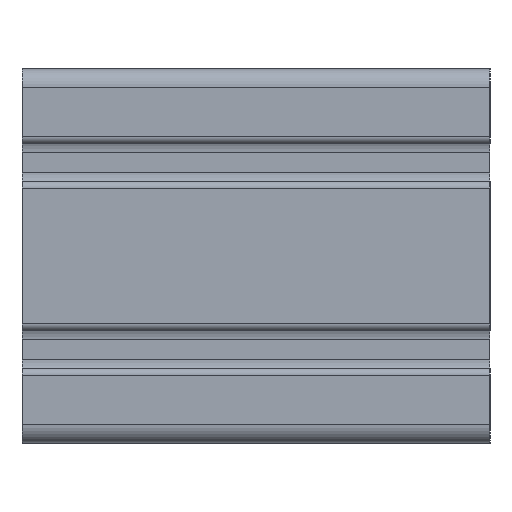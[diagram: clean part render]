
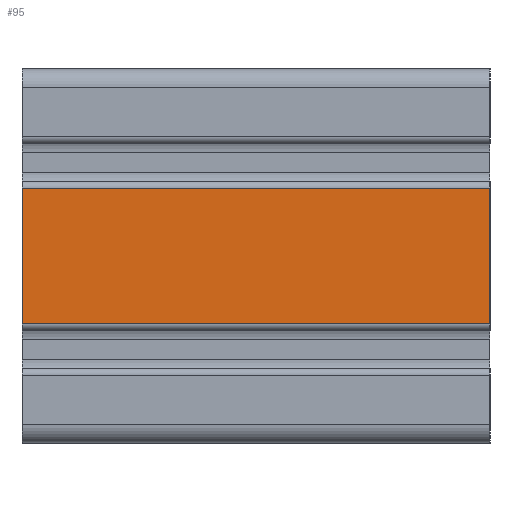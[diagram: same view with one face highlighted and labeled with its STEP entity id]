
A CAD part, left-side view. The second image highlights one B-rep face of the part: STEP entity #95.
In plain terms, the highlighted planar face has unit normal (-1, 0, 0).
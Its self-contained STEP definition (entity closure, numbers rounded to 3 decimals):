
#89 = VECTOR ( 'NONE', #5820, 1000. ) ;
#95 = ADVANCED_FACE ( 'NONE', ( #9629 ), #2145, .F. ) ;
#407 = CARTESIAN_POINT ( 'NONE',  ( -80., 50., -14.5 ) ) ;
#463 = CARTESIAN_POINT ( 'NONE',  ( -80., 50., -14.5 ) ) ;
#547 = EDGE_CURVE ( 'NONE', #7314, #4002, #8697, .T. ) ;
#610 = LINE ( 'NONE', #5519, #7800 ) ;
#1048 = DIRECTION ( 'NONE',  ( 0., -1., 0. ) ) ;
#1061 = DIRECTION ( 'NONE',  ( 0., 0., -1. ) ) ;
#1573 = AXIS2_PLACEMENT_3D ( 'NONE', #463, #8543, #1061 ) ;
#1890 = VERTEX_POINT ( 'NONE', #10784 ) ;
#1897 = CARTESIAN_POINT ( 'NONE',  ( -80., 50., -14.5 ) ) ;
#2108 = EDGE_CURVE ( 'NONE', #4002, #3892, #610, .T. ) ;
#2145 = PLANE ( 'NONE',  #1573 ) ;
#2564 = CARTESIAN_POINT ( 'NONE',  ( -80., -50., 14.5 ) ) ;
#2667 = CARTESIAN_POINT ( 'NONE',  ( -80., -50., -14.5 ) ) ;
#3411 = CARTESIAN_POINT ( 'NONE',  ( -80., 50., 14.5 ) ) ;
#3892 = VERTEX_POINT ( 'NONE', #2564 ) ;
#3901 = ORIENTED_EDGE ( 'NONE', *, *, #547, .T. ) ;
#3954 = LINE ( 'NONE', #3411, #9686 ) ;
#4002 = VERTEX_POINT ( 'NONE', #2667 ) ;
#5519 = CARTESIAN_POINT ( 'NONE',  ( -80., -50., -14.5 ) ) ;
#5625 = DIRECTION ( 'NONE',  ( 0., 0., 1. ) ) ;
#5820 = DIRECTION ( 'NONE',  ( 0., 0., 1. ) ) ;
#6359 = VECTOR ( 'NONE', #1048, 1000. ) ;
#6656 = EDGE_CURVE ( 'NONE', #7314, #1890, #9152, .T. ) ;
#6733 = DIRECTION ( 'NONE',  ( 0., -1., 0. ) ) ;
#6911 = ORIENTED_EDGE ( 'NONE', *, *, #6656, .F. ) ;
#7062 = EDGE_CURVE ( 'NONE', #1890, #3892, #3954, .T. ) ;
#7314 = VERTEX_POINT ( 'NONE', #407 ) ;
#7800 = VECTOR ( 'NONE', #5625, 1000. ) ;
#8216 = ORIENTED_EDGE ( 'NONE', *, *, #2108, .T. ) ;
#8543 = DIRECTION ( 'NONE',  ( 1., 0., 0. ) ) ;
#8697 = LINE ( 'NONE', #10384, #6359 ) ;
#9032 = ORIENTED_EDGE ( 'NONE', *, *, #7062, .F. ) ;
#9152 = LINE ( 'NONE', #1897, #89 ) ;
#9629 = FACE_OUTER_BOUND ( 'NONE', #9705, .T. ) ;
#9686 = VECTOR ( 'NONE', #6733, 1000. ) ;
#9705 = EDGE_LOOP ( 'NONE', ( #8216, #9032, #6911, #3901 ) ) ;
#10384 = CARTESIAN_POINT ( 'NONE',  ( -80., 50., -14.5 ) ) ;
#10784 = CARTESIAN_POINT ( 'NONE',  ( -80., 50., 14.5 ) ) ;
